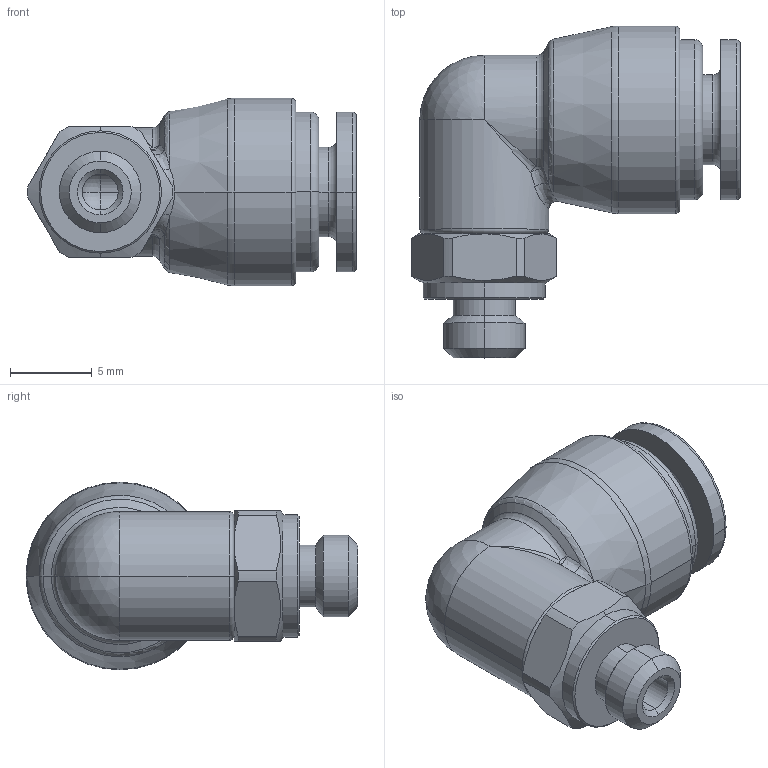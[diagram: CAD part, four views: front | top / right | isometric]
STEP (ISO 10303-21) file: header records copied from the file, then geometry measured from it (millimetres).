
FILE_DESCRIPTION (( 'STEP AP214' ), '1' );
FILE_NAME ('5311600002A.STEP', '2023-05-24T06:29:10', ( '' ), ( '' ), 'SwSTEP 2.0', 'SolidWorks 2020', '' );
FILE_SCHEMA (( 'AUTOMOTIVE_DESIGN' ));
Length unit declared in the file: millimetre
Products named in the file (1): 5311600002A
Bounding box: 20.15 x 20.35 x 11.5 mm (x, y, z)
Volume: 1529 mm3; surface area: 1346.3 mm2
Topology: 1 solids, 1 shells, 143 faces, 336 edges, 199 vertices
Faces by surface type: plane 40, cylinder 32, cone 26, bspline 21, torus 18, sphere 6
Entity records: 6316 total; most frequent: CARTESIAN_POINT 1578, ORIENTED_EDGE 660, DIRECTION 638, EDGE_CURVE 330, AXIS2_PLACEMENT_3D 251, VERTEX_POINT 199, EDGE_LOOP 155, UNCERTAINTY_MEASURE_WITH_UNIT 146
